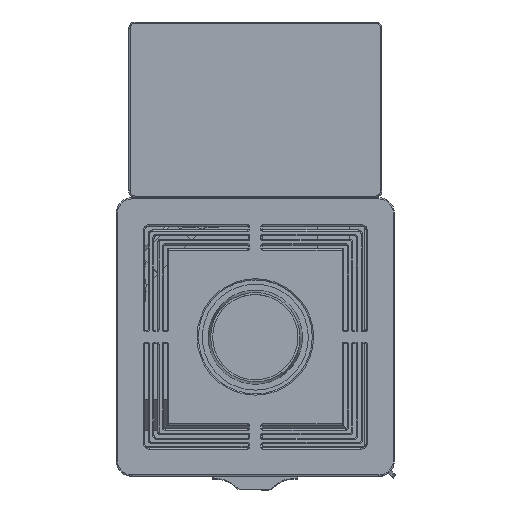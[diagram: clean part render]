
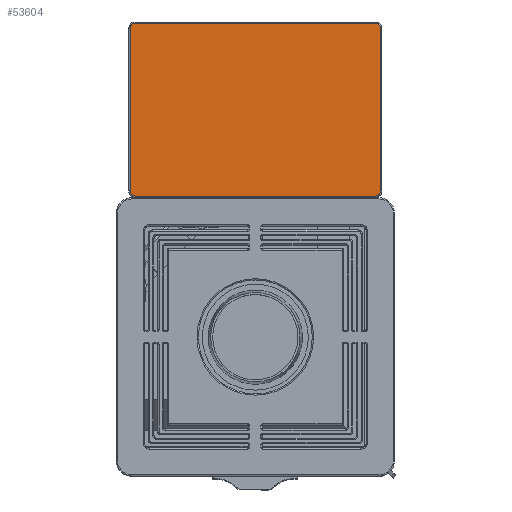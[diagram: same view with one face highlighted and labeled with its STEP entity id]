
A CAD part, top view. The second image highlights one B-rep face of the part: STEP entity #53604.
In plain terms, the highlighted planar face has unit normal (0, 0, 1).
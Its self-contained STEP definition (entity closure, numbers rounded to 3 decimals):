
#1205=CIRCLE('',#56550,8.);
#1206=CIRCLE('',#56551,8.);
#1207=CIRCLE('',#56552,8.);
#1208=CIRCLE('',#56553,8.);
#4220=LINE('',#98356,#7415);
#4221=LINE('',#98360,#7416);
#4222=LINE('',#98364,#7417);
#4223=LINE('',#98368,#7418);
#7415=VECTOR('',#64158,1000.);
#7416=VECTOR('',#64161,1000.);
#7417=VECTOR('',#64164,1000.);
#7418=VECTOR('',#64167,1000.);
#18070=ORIENTED_EDGE('',*,*,#26576,.T.);
#18071=ORIENTED_EDGE('',*,*,#26577,.T.);
#18072=ORIENTED_EDGE('',*,*,#26578,.T.);
#18073=ORIENTED_EDGE('',*,*,#26579,.T.);
#18074=ORIENTED_EDGE('',*,*,#26580,.T.);
#18075=ORIENTED_EDGE('',*,*,#26581,.T.);
#18076=ORIENTED_EDGE('',*,*,#26582,.T.);
#18077=ORIENTED_EDGE('',*,*,#26583,.T.);
#26576=EDGE_CURVE('',#31594,#31595,#1205,.F.);
#26577=EDGE_CURVE('',#31595,#31596,#4220,.T.);
#26578=EDGE_CURVE('',#31596,#31597,#1206,.F.);
#26579=EDGE_CURVE('',#31597,#31598,#4221,.T.);
#26580=EDGE_CURVE('',#31598,#31599,#1207,.F.);
#26581=EDGE_CURVE('',#31599,#31600,#4222,.T.);
#26582=EDGE_CURVE('',#31600,#31601,#1208,.F.);
#26583=EDGE_CURVE('',#31601,#31594,#4223,.T.);
#31594=VERTEX_POINT('',#98354);
#31595=VERTEX_POINT('',#98355);
#31596=VERTEX_POINT('',#98357);
#31597=VERTEX_POINT('',#98359);
#31598=VERTEX_POINT('',#98361);
#31599=VERTEX_POINT('',#98363);
#31600=VERTEX_POINT('',#98365);
#31601=VERTEX_POINT('',#98367);
#37527=EDGE_LOOP('',(#18070,#18071,#18072,#18073,#18074,#18075,#18076,#18077));
#40474=FACE_BOUND('',#37527,.T.);
#42600=PLANE('',#56549);
#53604=ADVANCED_FACE('',(#40474),#42600,.F.);
#56549=AXIS2_PLACEMENT_3D('',#98352,#64154,#64155);
#56550=AXIS2_PLACEMENT_3D('',#98353,#64156,#64157);
#56551=AXIS2_PLACEMENT_3D('',#98358,#64159,#64160);
#56552=AXIS2_PLACEMENT_3D('',#98362,#64162,#64163);
#56553=AXIS2_PLACEMENT_3D('',#98366,#64165,#64166);
#64154=DIRECTION('',(0.,0.,-1.));
#64155=DIRECTION('',(-1.,0.,0.));
#64156=DIRECTION('',(0.,0.,-1.));
#64157=DIRECTION('',(-1.,0.,0.));
#64158=DIRECTION('',(-1.,0.,0.));
#64159=DIRECTION('',(0.,0.,-1.));
#64160=DIRECTION('',(-1.,0.,0.));
#64161=DIRECTION('',(0.,-1.,0.));
#64162=DIRECTION('',(0.,0.,-1.));
#64163=DIRECTION('',(-1.,0.,0.));
#64164=DIRECTION('',(1.,0.,0.));
#64165=DIRECTION('',(0.,0.,-1.));
#64166=DIRECTION('',(-1.,0.,0.));
#64167=DIRECTION('',(0.,1.,0.));
#98352=CARTESIAN_POINT('',(133.25,-390.,1392.));
#98353=CARTESIAN_POINT('',(129.,-4.25,1392.));
#98354=CARTESIAN_POINT('',(137.,-4.25,1392.));
#98355=CARTESIAN_POINT('',(129.,3.75,1392.));
#98356=CARTESIAN_POINT('',(-129.,3.75,1392.));
#98357=CARTESIAN_POINT('',(-129.,3.75,1392.));
#98358=CARTESIAN_POINT('',(-129.,-4.25,1392.));
#98359=CARTESIAN_POINT('',(-137.,-4.25,1392.));
#98360=CARTESIAN_POINT('',(-137.,-385.75,1392.));
#98361=CARTESIAN_POINT('',(-137.,-385.75,1392.));
#98362=CARTESIAN_POINT('',(-129.,-385.75,1392.));
#98363=CARTESIAN_POINT('',(-129.,-393.75,1392.));
#98364=CARTESIAN_POINT('',(129.,-393.75,1392.));
#98365=CARTESIAN_POINT('',(129.,-393.75,1392.));
#98366=CARTESIAN_POINT('',(129.,-385.75,1392.));
#98367=CARTESIAN_POINT('',(137.,-385.75,1392.));
#98368=CARTESIAN_POINT('',(137.,-4.25,1392.));
